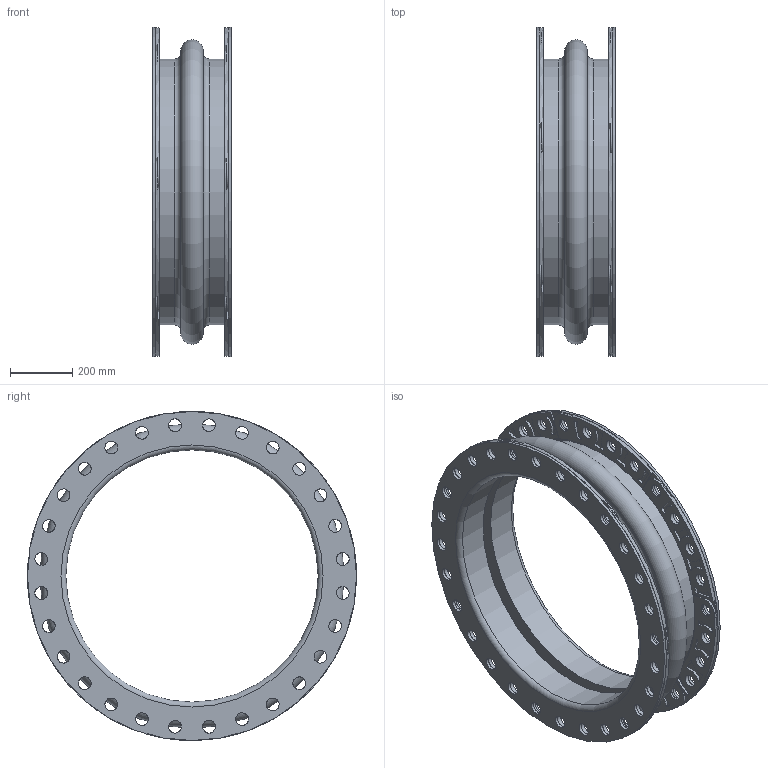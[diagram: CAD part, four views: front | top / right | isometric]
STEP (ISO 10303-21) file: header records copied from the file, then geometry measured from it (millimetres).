
FILE_DESCRIPTION(/* description */ (''),/* implementation_level */ '2;1');
FILE_NAME(/* name */ 'C:\001_Work\Designs\Mercer2014\MQInventor2014\RajR\500 Style\501\STP\501 32IDx10FF.stp',/* time_stamp */ '2016-03-16T13:12:16-04:00',/* author */ ('mquog'),/* organization */ (''),/* preprocessor_version */ 'ST-DEVELOPER v15.2',/* originating_system */ 'Autodesk Inventor 2014',/* authorisation */ '');
FILE_SCHEMA (('AUTOMOTIVE_DESIGN { 1 0 10303 214 3 1 1 }'));
Length unit declared in the file: centimetre
Products named in the file (1): 501 32IDx10FF
Bounding box: 254 x 1060.45 x 1060.45 mm (x, y, z)
Volume: 31536450.1 mm3; surface area: 4459178.3 mm2
Topology: 3 solids, 3 shells, 904 faces, 2448 edges, 1604 vertices
Faces by surface type: cylinder 636, plane 228, torus 36, cone 4
Full cylindrical faces by diameter (mm): 41.275 x126, 812.8 x2, 857.25 x2, 1060.45 x2
Entity records: 30159 total; most frequent: DIRECTION 5494, CARTESIAN_POINT 5345, ORIENTED_EDGE 4580, AXIS2_PLACEMENT_3D 2355, EDGE_CURVE 2290, VERTEX_POINT 1590, CIRCLE 1450, EDGE_LOOP 1332
